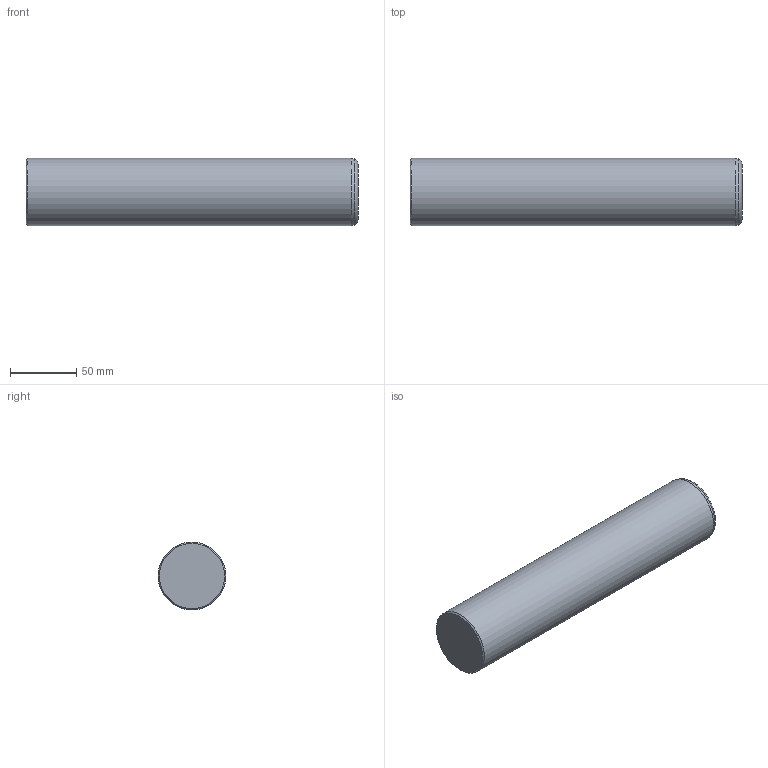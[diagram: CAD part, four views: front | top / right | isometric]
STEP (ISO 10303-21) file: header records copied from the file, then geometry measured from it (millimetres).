
FILE_DESCRIPTION(/* description */ ('Impex Ready, www.impex-ready.pl'),/* implementation_level */ '2;1');
FILE_NAME(/* name */ 'C:\Users\VIKKY\Nextcloud\SM\projekt 10 - części na stronę internetową\Pliki_3D_new\287 Słupy C4\287_C4_STEP\C451250.ipt.step',/* time_stamp */ '2021-12-20T14:25:43+01:00',/* author */ ('SM'),/* organization */ (''),/* preprocessor_version */ 'ST-DEVELOPER v18.1',/* originating_system */ 'Autodesk Inventor 2021',/* authorisation */ '');
FILE_SCHEMA (('AUTOMOTIVE_DESIGN { 1 0 10303 214 3 1 1 }'));
Length unit declared in the file: millimetre
Products named in the file (1): C451250
Bounding box: 250 x 51 x 51 mm (x, y, z)
Volume: 509790 mm3; surface area: 43693.1 mm2
Topology: 1 solids, 1 shells, 6 faces, 12 edges, 8 vertices
Faces by surface type: cone 2, plane 2, torus 1, cylinder 1
Full cylindrical faces by diameter (mm): 51 x1
Entity records: 239 total; most frequent: DIRECTION 35, CARTESIAN_POINT 27, ORIENTED_EDGE 24, AXIS2_PLACEMENT_3D 16, EDGE_CURVE 12, CIRCLE 9, VERTEX_POINT 8, STYLED_ITEM 7
